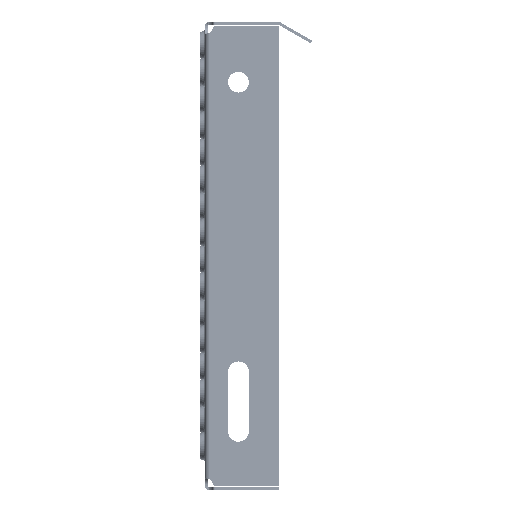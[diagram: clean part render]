
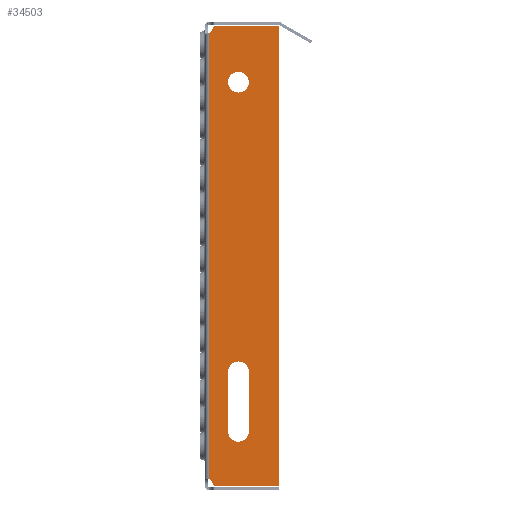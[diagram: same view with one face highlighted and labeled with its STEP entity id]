
A CAD part, left-side view. The second image highlights one B-rep face of the part: STEP entity #34503.
In plain terms, the highlighted planar face has unit normal (-1, 0, 0).
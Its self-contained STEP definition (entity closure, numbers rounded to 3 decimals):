
#686 = DIRECTION ( 'NONE',  ( 0., -1., 0. ) ) ;
#902 = CARTESIAN_POINT ( 'NONE',  ( -400., -3., 137.67 ) ) ;
#1017 = DIRECTION ( 'NONE',  ( 1., 0., 0. ) ) ;
#1975 = CIRCLE ( 'NONE', #11572, 5. ) ;
#2705 = ORIENTED_EDGE ( 'NONE', *, *, #26201, .T. ) ;
#3027 = ORIENTED_EDGE ( 'NONE', *, *, #45568, .F. ) ;
#3333 = VERTEX_POINT ( 'NONE', #22827 ) ;
#7022 = CARTESIAN_POINT ( 'NONE',  ( -400., -3., -172.916 ) ) ;
#8435 = DIRECTION ( 'NONE',  ( -1., 0., 0. ) ) ;
#8605 = CARTESIAN_POINT ( 'NONE',  ( -400., -15.5, -130.5 ) ) ;
#9122 = CARTESIAN_POINT ( 'NONE',  ( -400., -29.5, -90.5 ) ) ;
#9288 = AXIS2_PLACEMENT_3D ( 'NONE', #43307, #8435, #49186 ) ;
#9921 = LINE ( 'NONE', #46384, #70049 ) ;
#11066 = DIRECTION ( 'NONE',  ( -1., 0., 0. ) ) ;
#11247 = LINE ( 'NONE', #35531, #71408 ) ;
#11502 = DIRECTION ( 'NONE',  ( 0., 0., 1. ) ) ;
#11572 = AXIS2_PLACEMENT_3D ( 'NONE', #55169, #20322, #61014 ) ;
#11828 = VERTEX_POINT ( 'NONE', #63179 ) ;
#12189 = ORIENTED_EDGE ( 'NONE', *, *, #62658, .F. ) ;
#12447 = AXIS2_PLACEMENT_3D ( 'NONE', #32798, #73600, #38639 ) ;
#14735 = CIRCLE ( 'NONE', #12447, 7. ) ;
#15346 = VECTOR ( 'NONE', #29986, 1000. ) ;
#15556 = ORIENTED_EDGE ( 'NONE', *, *, #31636, .T. ) ;
#15607 = EDGE_CURVE ( 'NONE', #55373, #73570, #11247, .T. ) ;
#17090 = AXIS2_PLACEMENT_3D ( 'NONE', #31879, #72673, #37736 ) ;
#17964 = EDGE_CURVE ( 'NONE', #30662, #30662, #21957, .T. ) ;
#18315 = ORIENTED_EDGE ( 'NONE', *, *, #15607, .T. ) ;
#18689 = FACE_BOUND ( 'NONE', #62833, .T. ) ;
#19707 = CARTESIAN_POINT ( 'NONE',  ( -400., -6.416, -167. ) ) ;
#20322 = DIRECTION ( 'NONE',  ( 1., 0., 0. ) ) ;
#20615 = DIRECTION ( 'NONE',  ( 0., 0., -1. ) ) ;
#21957 = CIRCLE ( 'NONE', #57998, 7. ) ;
#22827 = CARTESIAN_POINT ( 'NONE',  ( -400., -3., -162.67 ) ) ;
#23866 = VERTEX_POINT ( 'NONE', #68228 ) ;
#24586 = DIRECTION ( 'NONE',  ( 0., 0., 1. ) ) ;
#25014 = FACE_OUTER_BOUND ( 'NONE', #40959, .T. ) ;
#26201 = EDGE_CURVE ( 'NONE', #3333, #11828, #1975, .T. ) ;
#26236 = ORIENTED_EDGE ( 'NONE', *, *, #33113, .T. ) ;
#28240 = CARTESIAN_POINT ( 'NONE',  ( -400., -50., -167. ) ) ;
#28315 = CARTESIAN_POINT ( 'NONE',  ( -400., -22.5, 97.5 ) ) ;
#28523 = EDGE_CURVE ( 'NONE', #58205, #66807, #68148, .T. ) ;
#29986 = DIRECTION ( 'NONE',  ( 0., 0., 1. ) ) ;
#30662 = VERTEX_POINT ( 'NONE', #28315 ) ;
#30931 = DIRECTION ( 'NONE',  ( 0., 1., 0. ) ) ;
#31636 = EDGE_CURVE ( 'NONE', #73570, #23866, #9921, .T. ) ;
#31879 = CARTESIAN_POINT ( 'NONE',  ( -400., -6.416, 141. ) ) ;
#32036 = VERTEX_POINT ( 'NONE', #44050 ) ;
#32798 = CARTESIAN_POINT ( 'NONE',  ( -400., -22.5, -90.5 ) ) ;
#33113 = EDGE_CURVE ( 'NONE', #23866, #32036, #58820, .T. ) ;
#33755 = CARTESIAN_POINT ( 'NONE',  ( -400., -22.5, 104.5 ) ) ;
#34503 = ADVANCED_FACE ( 'NONE', ( #25014, #40524, #18689 ), #43739, .F. ) ;
#35120 = LINE ( 'NONE', #68412, #66090 ) ;
#35531 = CARTESIAN_POINT ( 'NONE',  ( -400., -6.416, -167. ) ) ;
#35881 = CARTESIAN_POINT ( 'NONE',  ( -400., -0.5, 142. ) ) ;
#37736 = DIRECTION ( 'NONE',  ( 0., 0., 1. ) ) ;
#37790 = VERTEX_POINT ( 'NONE', #51504 ) ;
#38052 = ORIENTED_EDGE ( 'NONE', *, *, #17964, .F. ) ;
#38245 = EDGE_CURVE ( 'NONE', #74097, #63121, #54722, .T. ) ;
#38309 = ORIENTED_EDGE ( 'NONE', *, *, #73786, .F. ) ;
#38639 = DIRECTION ( 'NONE',  ( 0., 0., -1. ) ) ;
#39035 = AXIS2_PLACEMENT_3D ( 'NONE', #49614, #55441, #20615 ) ;
#39600 = DIRECTION ( 'NONE',  ( 0., 0., -1. ) ) ;
#40524 = FACE_BOUND ( 'NONE', #68042, .T. ) ;
#40959 = EDGE_LOOP ( 'NONE', ( #54271, #2705, #64776, #18315, #15556, #26236, #75084, #68139 ) ) ;
#41713 = DIRECTION ( 'NONE',  ( 0., 0., -1. ) ) ;
#42370 = ORIENTED_EDGE ( 'NONE', *, *, #28523, .F. ) ;
#43307 = CARTESIAN_POINT ( 'NONE',  ( -400., -6.416, -166. ) ) ;
#43739 = PLANE ( 'NONE',  #39035 ) ;
#44050 = CARTESIAN_POINT ( 'NONE',  ( -400., -6.416, 142. ) ) ;
#44153 = EDGE_CURVE ( 'NONE', #11828, #55373, #74489, .T. ) ;
#44166 = EDGE_CURVE ( 'NONE', #32036, #74097, #57092, .T. ) ;
#44479 = LINE ( 'NONE', #52867, #15346 ) ;
#45206 = AXIS2_PLACEMENT_3D ( 'NONE', #35881, #1017, #41713 ) ;
#45568 = EDGE_CURVE ( 'NONE', #37790, #58205, #35120, .T. ) ;
#45963 = CARTESIAN_POINT ( 'NONE',  ( -400., -22.5, -130.5 ) ) ;
#46384 = CARTESIAN_POINT ( 'NONE',  ( -400., -50., -167. ) ) ;
#47522 = LINE ( 'NONE', #7022, #74911 ) ;
#49186 = DIRECTION ( 'NONE',  ( 0., 0., -1. ) ) ;
#49614 = CARTESIAN_POINT ( 'NONE',  ( -400., 0.5, -172.916 ) ) ;
#50059 = CARTESIAN_POINT ( 'NONE',  ( -400., -5.43, 141.167 ) ) ;
#51504 = CARTESIAN_POINT ( 'NONE',  ( -400., -15.5, -90.5 ) ) ;
#51796 = DIRECTION ( 'NONE',  ( 0., 0., -1. ) ) ;
#52867 = CARTESIAN_POINT ( 'NONE',  ( -400., -29.5, -90.5 ) ) ;
#54271 = ORIENTED_EDGE ( 'NONE', *, *, #71856, .F. ) ;
#54722 = CIRCLE ( 'NONE', #45206, 5. ) ;
#55169 = CARTESIAN_POINT ( 'NONE',  ( -400., -0.5, -167. ) ) ;
#55219 = AXIS2_PLACEMENT_3D ( 'NONE', #45963, #11066, #51796 ) ;
#55373 = VERTEX_POINT ( 'NONE', #19707 ) ;
#55441 = DIRECTION ( 'NONE',  ( 1., 0., 0. ) ) ;
#56668 = DIRECTION ( 'NONE',  ( 0., 0., -1. ) ) ;
#57092 = CIRCLE ( 'NONE', #17090, 1. ) ;
#57998 = AXIS2_PLACEMENT_3D ( 'NONE', #33755, #74552, #39600 ) ;
#58205 = VERTEX_POINT ( 'NONE', #8605 ) ;
#58820 = LINE ( 'NONE', #65786, #72582 ) ;
#60052 = CARTESIAN_POINT ( 'NONE',  ( -400., -29.5, -130.5 ) ) ;
#61014 = DIRECTION ( 'NONE',  ( 0., 0., -1. ) ) ;
#62658 = EDGE_CURVE ( 'NONE', #71567, #37790, #14735, .T. ) ;
#62833 = EDGE_LOOP ( 'NONE', ( #3027, #12189, #38309, #42370 ) ) ;
#63121 = VERTEX_POINT ( 'NONE', #902 ) ;
#63179 = CARTESIAN_POINT ( 'NONE',  ( -400., -5.43, -166.167 ) ) ;
#64776 = ORIENTED_EDGE ( 'NONE', *, *, #44153, .T. ) ;
#65786 = CARTESIAN_POINT ( 'NONE',  ( -400., -50., 142. ) ) ;
#66090 = VECTOR ( 'NONE', #56668, 1000. ) ;
#66807 = VERTEX_POINT ( 'NONE', #60052 ) ;
#68042 = EDGE_LOOP ( 'NONE', ( #38052 ) ) ;
#68139 = ORIENTED_EDGE ( 'NONE', *, *, #38245, .T. ) ;
#68148 = CIRCLE ( 'NONE', #55219, 7. ) ;
#68228 = CARTESIAN_POINT ( 'NONE',  ( -400., -50., 142. ) ) ;
#68412 = CARTESIAN_POINT ( 'NONE',  ( -400., -15.5, -90.5 ) ) ;
#70049 = VECTOR ( 'NONE', #11502, 1000. ) ;
#71408 = VECTOR ( 'NONE', #686, 1000. ) ;
#71567 = VERTEX_POINT ( 'NONE', #9122 ) ;
#71856 = EDGE_CURVE ( 'NONE', #3333, #63121, #47522, .T. ) ;
#72582 = VECTOR ( 'NONE', #30931, 1000. ) ;
#72673 = DIRECTION ( 'NONE',  ( -1., 0., 0. ) ) ;
#73570 = VERTEX_POINT ( 'NONE', #28240 ) ;
#73600 = DIRECTION ( 'NONE',  ( -1., 0., 0. ) ) ;
#73786 = EDGE_CURVE ( 'NONE', #66807, #71567, #44479, .T. ) ;
#74097 = VERTEX_POINT ( 'NONE', #50059 ) ;
#74489 = CIRCLE ( 'NONE', #9288, 1. ) ;
#74552 = DIRECTION ( 'NONE',  ( -1., 0., 0. ) ) ;
#74911 = VECTOR ( 'NONE', #24586, 1000. ) ;
#75084 = ORIENTED_EDGE ( 'NONE', *, *, #44166, .T. ) ;
